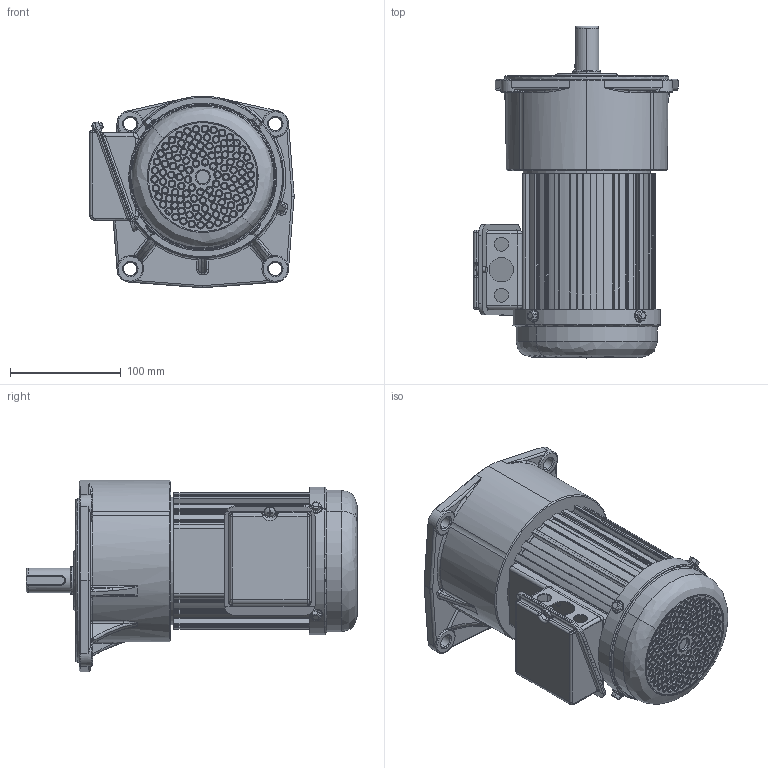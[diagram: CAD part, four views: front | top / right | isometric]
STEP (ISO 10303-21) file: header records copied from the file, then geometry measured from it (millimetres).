
FILE_DESCRIPTION (( 'STEP AP203' ), '1' );
FILE_NAME ('单相200W2#立式.STEP', '2015-10-23T01:54:43', ( '微软中国' ), ( '微软用户' ), 'SwSTEP 2.0', 'SolidWorks 2009', '' );
FILE_SCHEMA (( 'CONFIG_CONTROL_DESIGN' ));
Length unit declared in the file: millimetre
Products named in the file (11): 100W綴裔; 等眈100W諉盄碟釱; 等眈200W2#蕾宒; 200W儂褲; 瑞欶盓殤; 100W瑞欶; Hex Flange Bolts-Heavy Grade B GB_GB_FASTENER_BOLT_HFBB M5X10-N; 2#蕾宒熬厒ん; 等眈100W諉盄碟裔; Cross recessed pan head screws GB_GB_CROSS_SCREWS_TYPE1 M5X6-6  H type-N; 蚾饜极3
Assembly tree (16 placements, depth 3):
  等眈200W2#蕾宒
    瑞欶盓殤  x4
    200W儂褲
    Hex Flange Bolts-Heavy Grade B GB_GB_FASTENER_BOLT_HFBB M5X10-N  x4
    100W瑞欶
    2#蕾宒熬厒ん
    蚾饜极3
      等眈100W諉盄碟裔
      等眈100W諉盄碟釱
      Cross recessed pan head screws GB_GB_CROSS_SCREWS_TYPE1 M5X6-6  H type-N
    100W綴裔
Bounding box: 184.38 x 299.5 x 172.99 mm (x, y, z)
Volume: 2015378.1 mm3; surface area: 376121.6 mm2
Topology: 15 solids, 15 shells, 1633 faces, 4245 edges, 2634 vertices
Faces by surface type: bspline 745, cylinder 521, plane 307, torus 30, cone 24, sphere 6
Entity records: 65326 total; most frequent: CARTESIAN_POINT 28738, ORIENTED_EDGE 7928, DIRECTION 7000, EDGE_CURVE 3964, AXIS2_PLACEMENT_3D 2876, VERTEX_POINT 2478, CIRCLE 2067, EDGE_LOOP 1806
